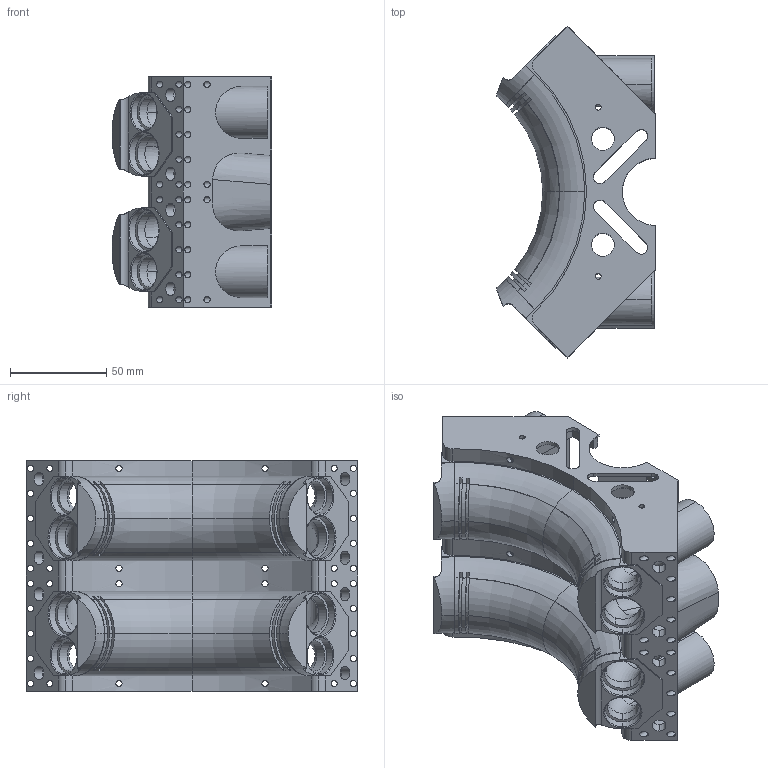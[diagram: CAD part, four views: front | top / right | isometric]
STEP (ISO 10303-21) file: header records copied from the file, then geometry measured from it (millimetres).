
FILE_DESCRIPTION(('STEP AP214'),'1');
FILE_NAME('C:/Users/mashimo/Documents/円弧動エンジン/ボア4.4ｃｍ/TurboCAD/3D/tmp0.STEP','2023-12-27T10:11:45',(' '),(' '),'Spatial InterOp 3D',' ',' ');
FILE_SCHEMA(('automotive_design'));
Length unit declared in the file: millimetre
Products named in the file (1): 1
Bounding box: 83.19 x 172.59 x 120 mm (x, y, z)
Volume: 297561.5 mm3; surface area: 222292.2 mm2
Topology: 1 solids, 3 shells, 930 faces, 2816 edges, 1870 vertices
Faces by surface type: cylinder 506, plane 292, torus 124, bspline 8
Entity records: 50628 total; most frequent: CARTESIAN_POINT 16849, ORIENTED_EDGE 5632, DIRECTION 5598, EDGE_CURVE 2816, AXIS2_PLACEMENT_3D 2267, VERTEX_POINT 1870, EDGE_LOOP 1192, LINE 1064
